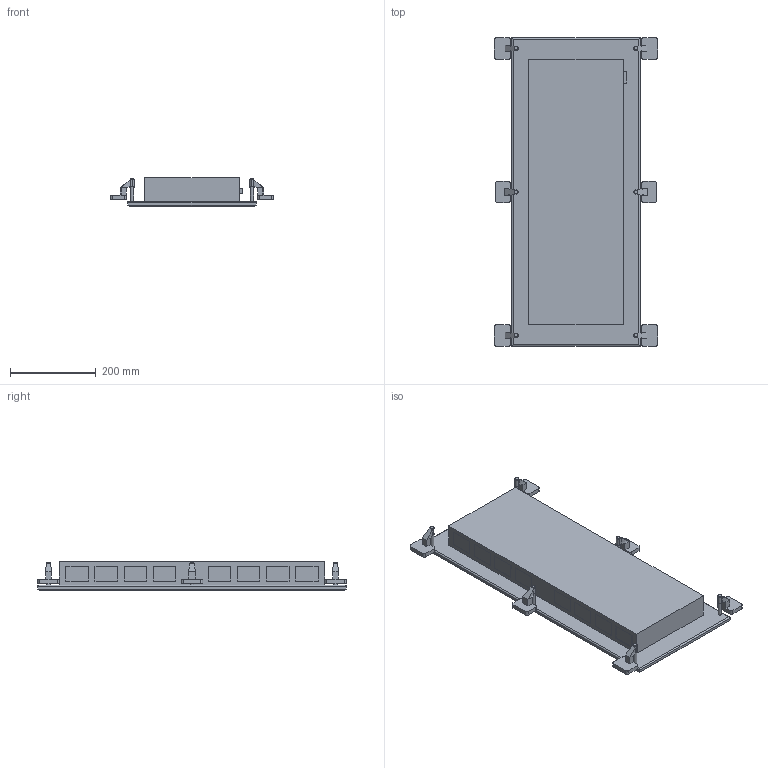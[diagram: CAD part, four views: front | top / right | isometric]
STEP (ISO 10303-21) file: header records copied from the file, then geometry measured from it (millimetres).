
FILE_DESCRIPTION(/* description */ (''),/* implementation_level */ '2;1');
FILE_NAME(/* name */ 'DE Plan 800.stp',/* time_stamp */ '2024-08-28T11:01:55+02:00',/* author */ ('d.streicher'),/* organization */ (''),/* preprocessor_version */ 'ST-DEVELOPER v20',/* originating_system */ 'Autodesk Inventor 2025',/* authorisation */ '');
FILE_SCHEMA (('AUTOMOTIVE_DESIGN { 1 0 10303 214 3 1 1 }'));
Length unit declared in the file: millimetre
Products named in the file (1): DE Plan 800
Bounding box: 382 x 720 x 67 mm (x, y, z)
Volume: 10216941.4 mm3; surface area: 597641.8 mm2
Topology: 1 solids, 1 shells, 261 faces, 651 edges, 459 vertices
Faces by surface type: plane 197, cylinder 52, bspline 12
Full cylindrical faces by diameter (mm): 8 x18
Entity records: 7963 total; most frequent: CARTESIAN_POINT 1519, ORIENTED_EDGE 1236, DIRECTION 1232, EDGE_CURVE 618, LINE 510, VECTOR 510, VERTEX_POINT 388, AXIS2_PLACEMENT_3D 361
